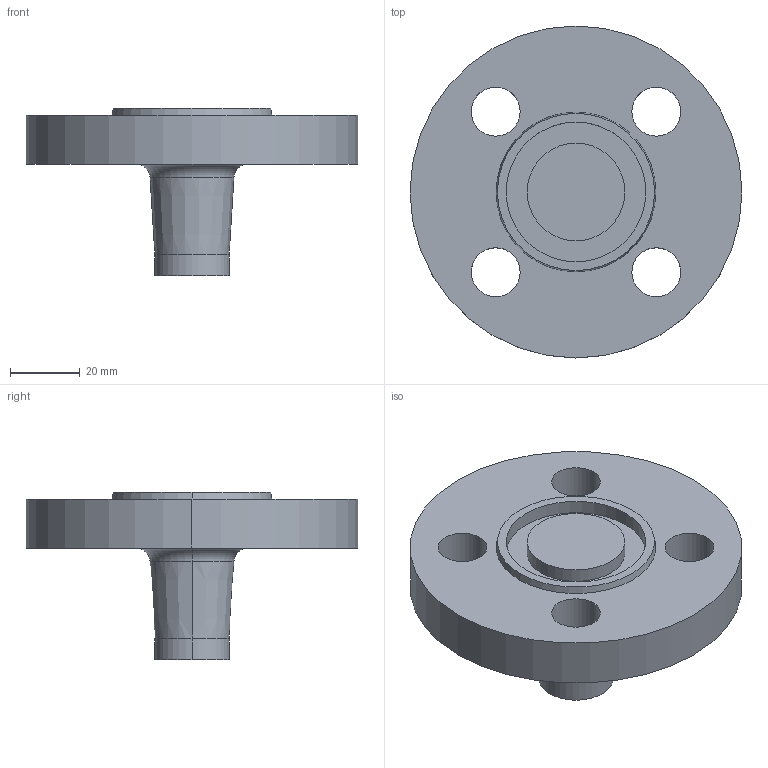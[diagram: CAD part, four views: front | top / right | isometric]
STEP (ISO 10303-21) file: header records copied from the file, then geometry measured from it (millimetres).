
FILE_DESCRIPTION (( 'STEP AP214' ), '1' );
FILE_NAME ('PN40 DN15 Type 21(ii) - Type D Face.STEP', '2018-12-29T14:25:06', ( '' ), ( '' ), 'SwSTEP 2.0', 'SolidWorks 2019', '' );
FILE_SCHEMA (( 'AUTOMOTIVE_DESIGN' ));
Length unit declared in the file: millimetre
Products named in the file (1): PN40 DN15 Type 21(ii) - Type D Face
Bounding box: 95 x 95 x 48 mm (x, y, z)
Volume: 104370.8 mm3; surface area: 22731.9 mm2
Topology: 1 solids, 1 shells, 30 faces, 66 edges, 42 vertices
Faces by surface type: cylinder 16, plane 6, torus 4, cone 4
Entity records: 898 total; most frequent: DIRECTION 174, CARTESIAN_POINT 139, ORIENTED_EDGE 132, AXIS2_PLACEMENT_3D 77, EDGE_CURVE 66, CIRCLE 46, EDGE_LOOP 42, VERTEX_POINT 42
